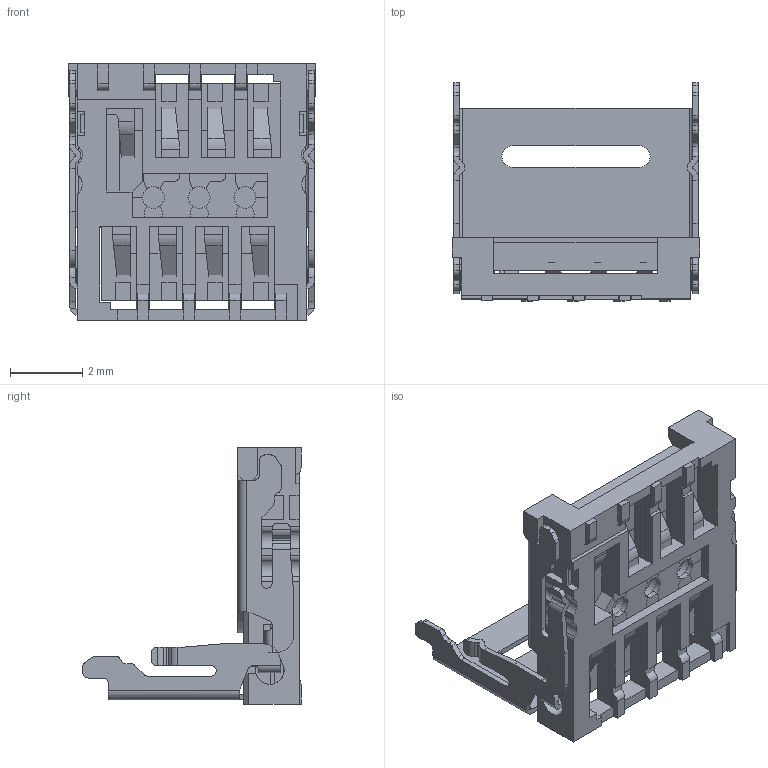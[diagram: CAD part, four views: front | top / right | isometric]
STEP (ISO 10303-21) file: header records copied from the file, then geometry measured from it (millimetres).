
FILE_DESCRIPTION((''),'2;1');
FILE_NAME('XIANGAI-CARD-A-2-2_ASM','2021-05-28T',('Administrator'),(''),'PRO/ENGINEER BY PARAMETRIC TECHNOLOGY CORPORATION, 2011310','PRO/ENGINEER BY PARAMETRIC TECHNOLOGY CORPORATION, 2011310','');
FILE_SCHEMA(('AUTOMOTIVE_DESIGN { 1 2 10303 214 0 1 1 1 }'));
Length unit declared in the file: millimetre
Products named in the file (13): XIANGAI-CARD-H-2-2_AF0; XIANGAI-CARD-CARD; XIANGAI-CARD-S-2-2_AF0; XIANGAI-CARD-T-2-2-C4; XIANGAI-CARD-T-2-2A_AF0; XIANGAI-CARD-T-2-3A_AF0; XIANGAI-CARD-T-2-4A_AF0; XIANGAI-CARD-T-2-4A_AF1; XIANGAI-CARD-T-2-2_AF0; XIANGAI-CARD-T-2-2_AF1; XIANGAI-CARD-T-2-1A_AF0; XIANGAI-CARD-S-2-2; XIANGAI-CARD-A-2-2_ASM
Assembly tree (12 placements, depth 2):
  XIANGAI-CARD-A-2-2_ASM
    XIANGAI-CARD-H-2-2_AF0
    XIANGAI-CARD-CARD
    XIANGAI-CARD-S-2-2_AF0
    XIANGAI-CARD-T-2-2-C4
    XIANGAI-CARD-T-2-2A_AF0
    XIANGAI-CARD-T-2-3A_AF0
    XIANGAI-CARD-T-2-4A_AF0
    XIANGAI-CARD-T-2-4A_AF1
    XIANGAI-CARD-T-2-2_AF0
    XIANGAI-CARD-T-2-2_AF1
    XIANGAI-CARD-T-2-1A_AF0
    XIANGAI-CARD-S-2-2
Bounding box: 6.86 x 6.04 x 7.1 mm (x, y, z)
Volume: 59.5 mm3; surface area: 429.6 mm2
Topology: 18 solids, 18 shells, 802 faces, 2272 edges, 1505 vertices
Faces by surface type: plane 507, cylinder 295
Entity records: 33683 total; most frequent: CARTESIAN_POINT 4946, ORIENTED_EDGE 4544, DIRECTION 4402, EDGE_CURVE 2272, PRESENTATION_STYLE_ASSIGNMENT 2175, STYLED_ITEM 2175, CURVE_STYLE 2149, VECTOR 1648
